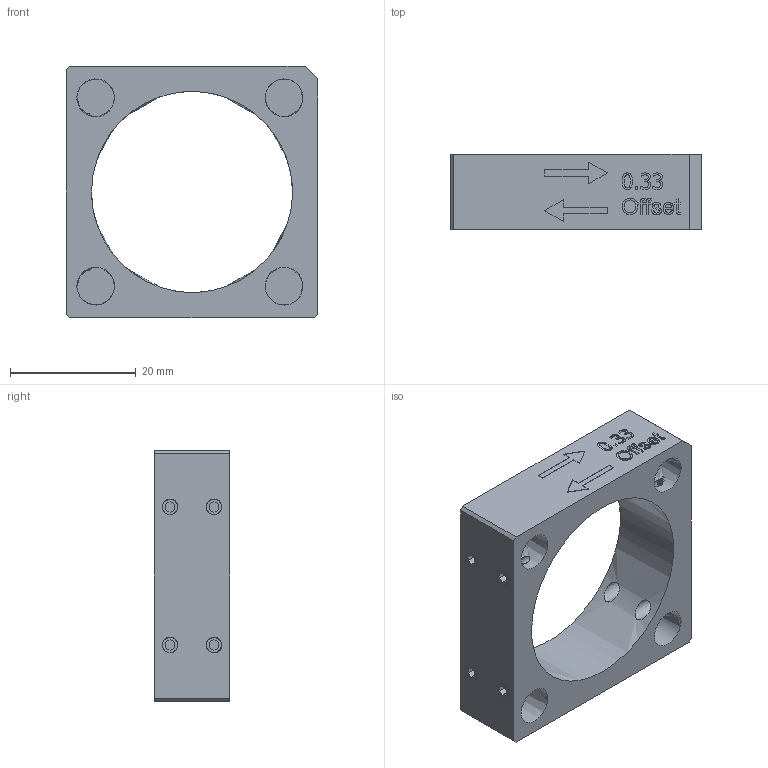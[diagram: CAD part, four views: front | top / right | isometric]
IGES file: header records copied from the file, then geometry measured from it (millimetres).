
Global section: file name: C30-OFS-0.33; native system: Autodesk Inventor 2020; preprocessor: unknown; author: e.nonaka; date: 20191125.093422; units: millimetre
Bounding box: 40 x 12 x 40 mm (x, y, z)
Volume: 8196.2 mm3; surface area: 5726.4 mm2
Topology: 1 solids, 1 shells, 329 faces, 896 edges, 611 vertices
Faces by surface type: bspline 329
